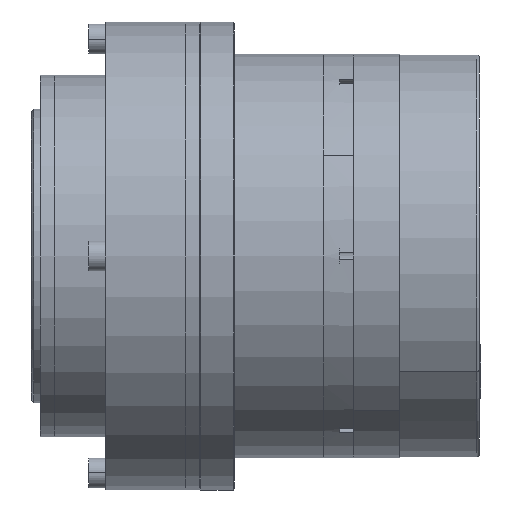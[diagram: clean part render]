
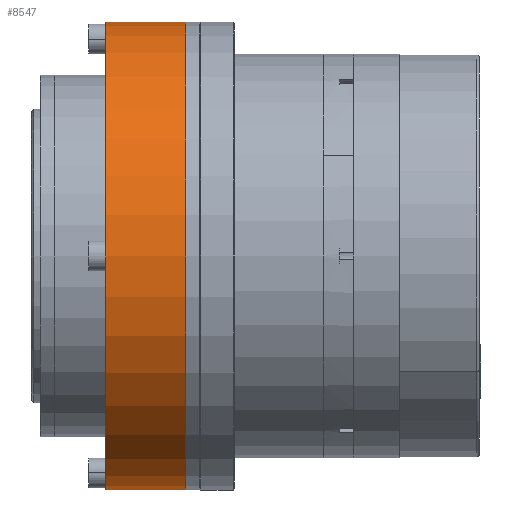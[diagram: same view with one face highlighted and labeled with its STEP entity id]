
A CAD part, left-side view. The second image highlights one B-rep face of the part: STEP entity #8547.
In plain terms, the highlighted cylindrical face has radius 55 mm (diameter 110 mm), a partial arc.
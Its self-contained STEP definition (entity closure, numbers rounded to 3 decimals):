
#1225 = ORIENTED_EDGE ( 'NONE', *, *, #28005, .F. ) ;
#3314 = CIRCLE ( 'NONE', #20409, 55. ) ;
#3822 = VECTOR ( 'NONE', #15659, 1000. ) ;
#4769 = CARTESIAN_POINT ( 'NONE',  ( 0., 3.3, 0. ) ) ;
#4853 = CARTESIAN_POINT ( 'NONE',  ( 0., 22., -55. ) ) ;
#6318 = CARTESIAN_POINT ( 'NONE',  ( 0., 22., 0. ) ) ;
#6835 = ORIENTED_EDGE ( 'NONE', *, *, #9565, .F. ) ;
#7473 = CARTESIAN_POINT ( 'NONE',  ( 0., 22., -55. ) ) ;
#8547 = ADVANCED_FACE ( 'NONE', ( #11890 ), #26924, .T. ) ;
#9565 = EDGE_CURVE ( 'NONE', #23961, #13360, #17705, .T. ) ;
#10726 = VERTEX_POINT ( 'NONE', #11190 ) ;
#11190 = CARTESIAN_POINT ( 'NONE',  ( 0., 3.3, -55. ) ) ;
#11890 = FACE_OUTER_BOUND ( 'NONE', #15282, .T. ) ;
#13181 = DIRECTION ( 'NONE',  ( 0., 0., -1. ) ) ;
#13219 = ORIENTED_EDGE ( 'NONE', *, *, #24772, .F. ) ;
#13316 = DIRECTION ( 'NONE',  ( 0., -1., 0. ) ) ;
#13360 = VERTEX_POINT ( 'NONE', #17491 ) ;
#13484 = VERTEX_POINT ( 'NONE', #7473 ) ;
#13659 = DIRECTION ( 'NONE',  ( 0., 1., 0. ) ) ;
#13684 = DIRECTION ( 'NONE',  ( 0., -1., 0. ) ) ;
#13819 = EDGE_CURVE ( 'NONE', #13484, #10726, #20897, .T. ) ;
#15188 = ORIENTED_EDGE ( 'NONE', *, *, #13819, .T. ) ;
#15282 = EDGE_LOOP ( 'NONE', ( #6835, #13219, #15188, #1225 ) ) ;
#15500 = CARTESIAN_POINT ( 'NONE',  ( 0., 22., 55. ) ) ;
#15659 = DIRECTION ( 'NONE',  ( 0., -1., 0. ) ) ;
#16515 = DIRECTION ( 'NONE',  ( 0., -1., 0. ) ) ;
#17491 = CARTESIAN_POINT ( 'NONE',  ( 0., 3.3, 55. ) ) ;
#17705 = LINE ( 'NONE', #24749, #3822 ) ;
#18366 = AXIS2_PLACEMENT_3D ( 'NONE', #20426, #16515, #27198 ) ;
#20409 = AXIS2_PLACEMENT_3D ( 'NONE', #4769, #13316, #13181 ) ;
#20426 = CARTESIAN_POINT ( 'NONE',  ( 0., 22., 0. ) ) ;
#20897 = LINE ( 'NONE', #4853, #24312 ) ;
#23782 = AXIS2_PLACEMENT_3D ( 'NONE', #6318, #13659, #23948 ) ;
#23948 = DIRECTION ( 'NONE',  ( 0., 0., 1. ) ) ;
#23961 = VERTEX_POINT ( 'NONE', #15500 ) ;
#24312 = VECTOR ( 'NONE', #13684, 1000. ) ;
#24749 = CARTESIAN_POINT ( 'NONE',  ( 0., 22., 55. ) ) ;
#24772 = EDGE_CURVE ( 'NONE', #13484, #23961, #25617, .T. ) ;
#25617 = CIRCLE ( 'NONE', #23782, 55. ) ;
#26924 = CYLINDRICAL_SURFACE ( 'NONE', #18366, 55. ) ;
#27198 = DIRECTION ( 'NONE',  ( 0., 0., -1. ) ) ;
#28005 = EDGE_CURVE ( 'NONE', #13360, #10726, #3314, .T. ) ;
